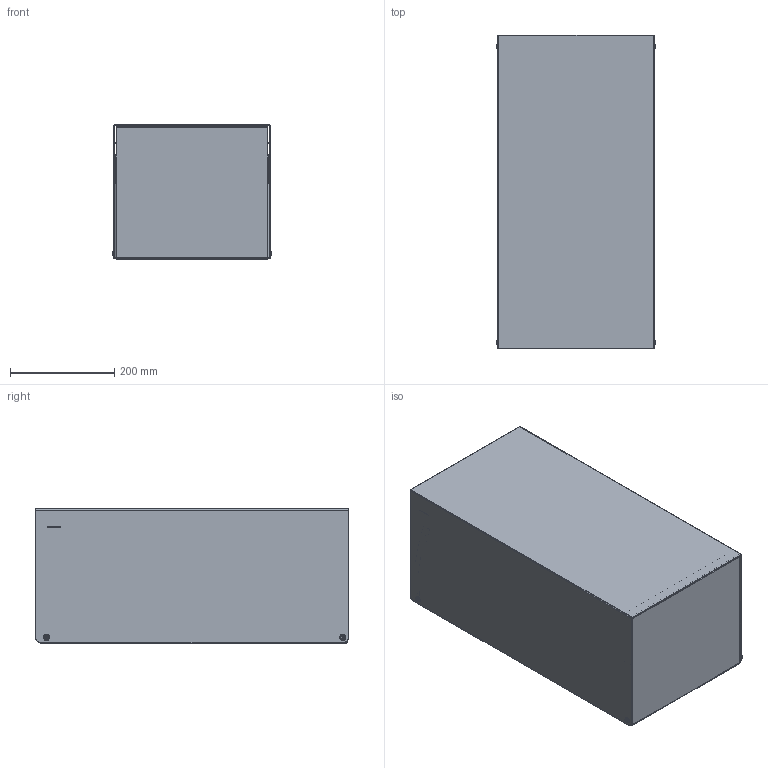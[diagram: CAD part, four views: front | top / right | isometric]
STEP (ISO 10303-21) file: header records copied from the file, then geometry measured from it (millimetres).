
FILE_DESCRIPTION (( 'STEP AP214' ), '1' );
FILE_NAME ('11-005-0600-W-00-00.STEP', '2023-05-30T09:39:18', ( '' ), ( '' ), 'SwSTEP 2.0', 'SolidWorks 2021', '' );
FILE_SCHEMA (( 'AUTOMOTIVE_DESIGN' ));
Length unit declared in the file: millimetre
Products named in the file (12): 11-005-0600-W-00-00; 11-005-0600-W-01-02; Œruba M4x10; Tulejka GFM_0405_06_1.stp; Nakrêtka m4; 11-005-0600-W-00-01; podk³adka teflonowa m6; 11-005-0600-W-01-00; 11-005-0600-W-02-00; 11-005-0600-W-01-01; 11-005-0600-W-02-01; 2023_05_22_09_07_23_0223.stp
Assembly tree (28 placements, depth 3):
  11-005-0600-W-00-00
    11-005-0600-W-01-00
      11-005-0600-W-01-02
      11-005-0600-W-01-01  x2
    11-005-0600-W-02-00
      11-005-0600-W-02-01
      11-005-0600-W-01-01  x2
    Nakrêtka m4  x4
    podk³adka teflonowa m6  x8
    Tulejka GFM_0405_06_1.stp  x2
      2023_05_22_09_07_23_0223.stp
    Œruba M4x10  x4
    11-005-0600-W-00-01
Bounding box: 306.19 x 600 x 257 mm (x, y, z)
Volume: 1093497.1 mm3; surface area: 1794878 mm2
Topology: 25 solids, 25 shells, 554 faces, 1334 edges, 836 vertices
Faces by surface type: plane 232, cylinder 202, cone 96, bspline 20, torus 4
Entity records: 9801 total; most frequent: CARTESIAN_POINT 3402, DIRECTION 1283, ORIENTED_EDGE 1206, EDGE_CURVE 603, AXIS2_PLACEMENT_3D 485, VERTEX_POINT 368, LINE 313, VECTOR 313
